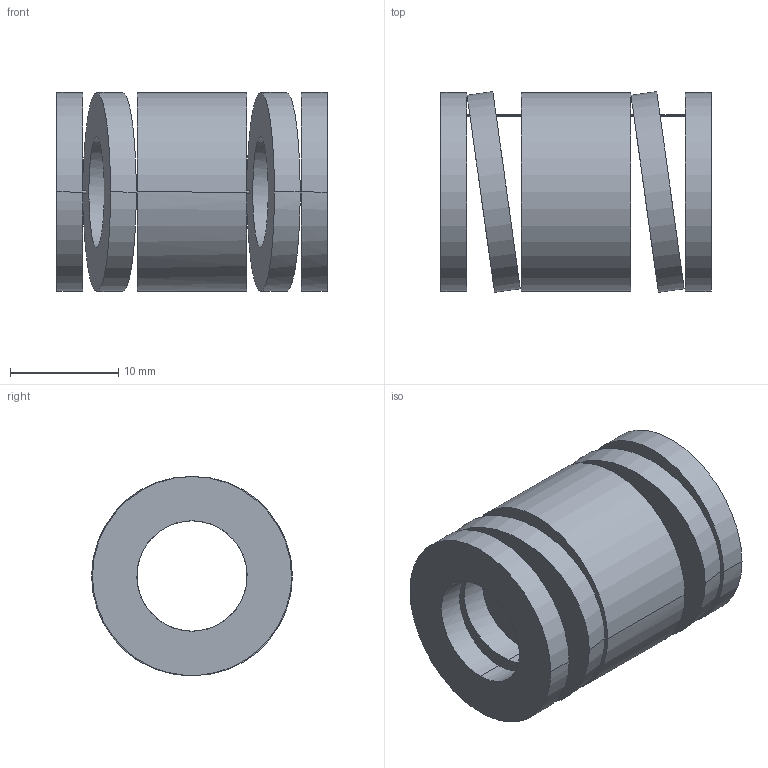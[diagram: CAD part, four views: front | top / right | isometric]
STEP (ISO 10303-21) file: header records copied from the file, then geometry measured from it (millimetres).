
FILE_DESCRIPTION(('CATIA V5 STEP Exchange'),'2;1');
FILE_NAME('C:\Users\Utente\Desktop\IO LAVORO\3D X SITO CF\X SITO\3D files 392B\392-B20-025.stp','2021-08-12T14:00:21+00:00',('none'),('none'),'CATIA Version 5 Release 20 GA (IN-10)','CATIA V5 STEP AP203','none');
FILE_SCHEMA(('CONFIG_CONTROL_DESIGN'));
Length unit declared in the file: millimetre
Products named in the file (1): 392-B20-025
Bounding box: 25 x 18.56 x 18.4 mm (x, y, z)
Volume: 3625 mm3; surface area: 3613.3 mm2
Topology: 1 solids, 1 shells, 38 faces, 92 edges, 64 vertices
Faces by surface type: cylinder 28, plane 10
Entity records: 1590 total; most frequent: CARTESIAN_POINT 707, ORIENTED_EDGE 184, DIRECTION 126, EDGE_CURVE 92, VERTEX_POINT 64, AXIS2_PLACEMENT_3D 61, EDGE_LOOP 56, B_SPLINE_CURVE_WITH_KNOTS 42
